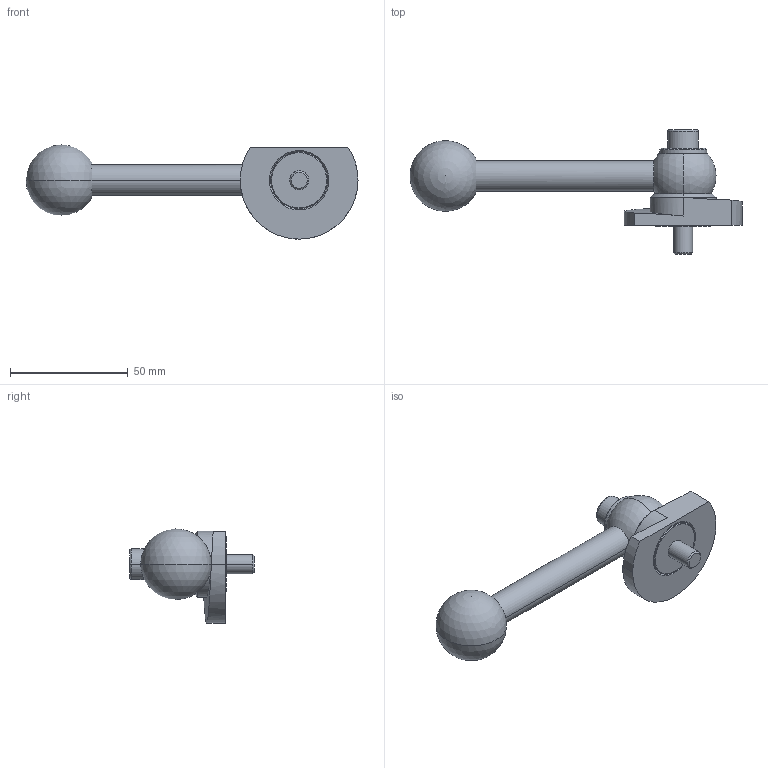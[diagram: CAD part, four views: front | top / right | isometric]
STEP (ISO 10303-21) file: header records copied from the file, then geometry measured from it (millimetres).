
FILE_DESCRIPTION (( 'STEP AP214' ), '1' );
FILE_NAME ('918.1-50-GVS-L-12.step', '2024-05-15T13:01:30', ( '' ), ( '' ), 'SwSTEP 2.0', 'SolidWorks 2022', '' );
FILE_SCHEMA (( 'AUTOMOTIVE_DESIGN' ));
Length unit declared in the file: millimetre
Products named in the file (1): 918.1-50-GVS-L-12
Bounding box: 141 x 53 x 40 mm (x, y, z)
Volume: 51588.1 mm3; surface area: 15645.8 mm2
Topology: 1 solids, 1 shells, 62 faces, 140 edges, 88 vertices
Faces by surface type: plane 20, cylinder 19, cone 14, sphere 4, bspline 3, torus 2
Entity records: 2001 total; most frequent: CARTESIAN_POINT 613, DIRECTION 305, ORIENTED_EDGE 260, EDGE_CURVE 130, AXIS2_PLACEMENT_3D 125, VERTEX_POINT 82, EDGE_LOOP 74, CIRCLE 65
